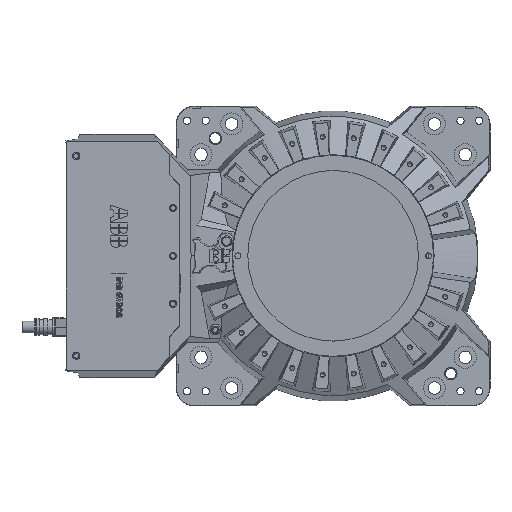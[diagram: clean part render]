
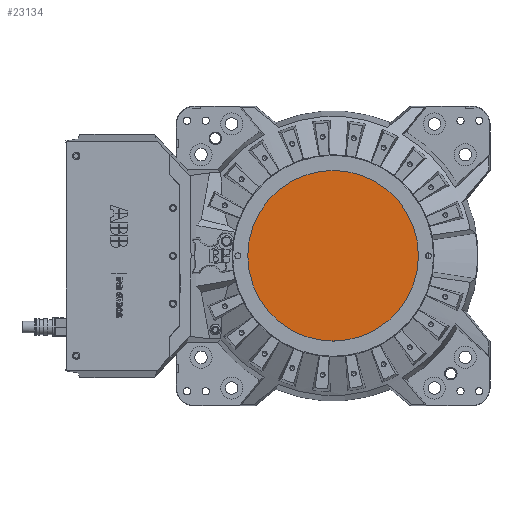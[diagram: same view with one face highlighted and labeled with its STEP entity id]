
A CAD part, top view. The second image highlights one B-rep face of the part: STEP entity #23134.
In plain terms, the highlighted planar face has unit normal (0, 0, 1).
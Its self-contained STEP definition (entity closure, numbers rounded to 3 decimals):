
#2846 = CARTESIAN_POINT ( 'NONE',  ( 0., 0., 359.4 ) ) ;
#8034 = AXIS2_PLACEMENT_3D ( 'NONE', #19143, #18703, #22051 ) ;
#10490 = VERTEX_POINT ( 'NONE', #24313 ) ;
#16658 = FACE_OUTER_BOUND ( 'NONE', #17140, .T. ) ;
#17140 = EDGE_LOOP ( 'NONE', ( #36497 ) ) ;
#18703 = DIRECTION ( 'NONE',  ( 0., 0., 1. ) ) ;
#19143 = CARTESIAN_POINT ( 'NONE',  ( 0., 0., 359.4 ) ) ;
#19434 = CIRCLE ( 'NONE', #8034, 205. ) ;
#20684 = DIRECTION ( 'NONE',  ( 1., 0., 0. ) ) ;
#22051 = DIRECTION ( 'NONE',  ( 1., 0., 0. ) ) ;
#23134 = ADVANCED_FACE ( 'NONE', ( #16658 ), #43582, .T. ) ;
#24313 = CARTESIAN_POINT ( 'NONE',  ( 205., 0., 359.4 ) ) ;
#26664 = DIRECTION ( 'NONE',  ( 0., 0., 1. ) ) ;
#27347 = AXIS2_PLACEMENT_3D ( 'NONE', #2846, #26664, #20684 ) ;
#36497 = ORIENTED_EDGE ( 'NONE', *, *, #43281, .T. ) ;
#43281 = EDGE_CURVE ( 'NONE', #10490, #10490, #19434, .T. ) ;
#43582 = PLANE ( 'NONE',  #27347 ) ;
